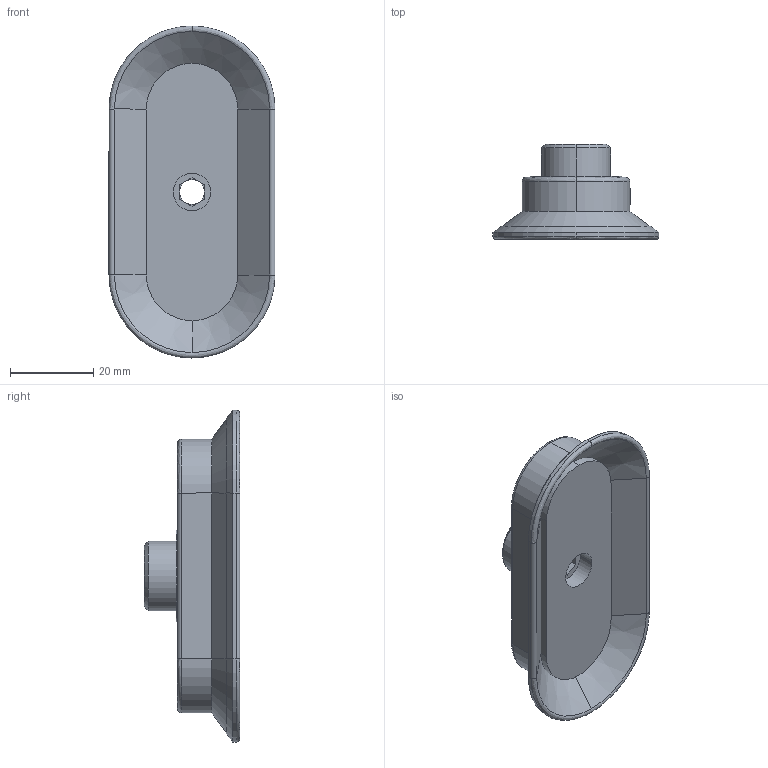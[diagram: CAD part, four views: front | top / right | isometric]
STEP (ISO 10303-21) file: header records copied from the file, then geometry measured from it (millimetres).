
FILE_DESCRIPTION (( 'STEP AP214' ), '1' );
FILE_NAME ('SAOF-8040-G3-8AG.STEP', '2023-03-07T06:22:42', ( 'Windows User' ), ( 'P R C' ), 'SwSTEP 2.0', 'SolidWorks 2019', '' );
FILE_SCHEMA (( 'AUTOMOTIVE_DESIGN' ));
Length unit declared in the file: millimetre
Products named in the file (1): SAOF-8040-G3-8AG
Bounding box: 40 x 23 x 80 mm (x, y, z)
Volume: 19870 mm3; surface area: 9079 mm2
Topology: 1 solids, 1 shells, 123 faces, 288 edges, 178 vertices
Faces by surface type: plane 65, bspline 23, cylinder 23, cone 12
Entity records: 6798 total; most frequent: CARTESIAN_POINT 2696, ORIENTED_EDGE 576, DIRECTION 520, EDGE_CURVE 288, LINE 184, VECTOR 184, VERTEX_POINT 178, AXIS2_PLACEMENT_3D 168
